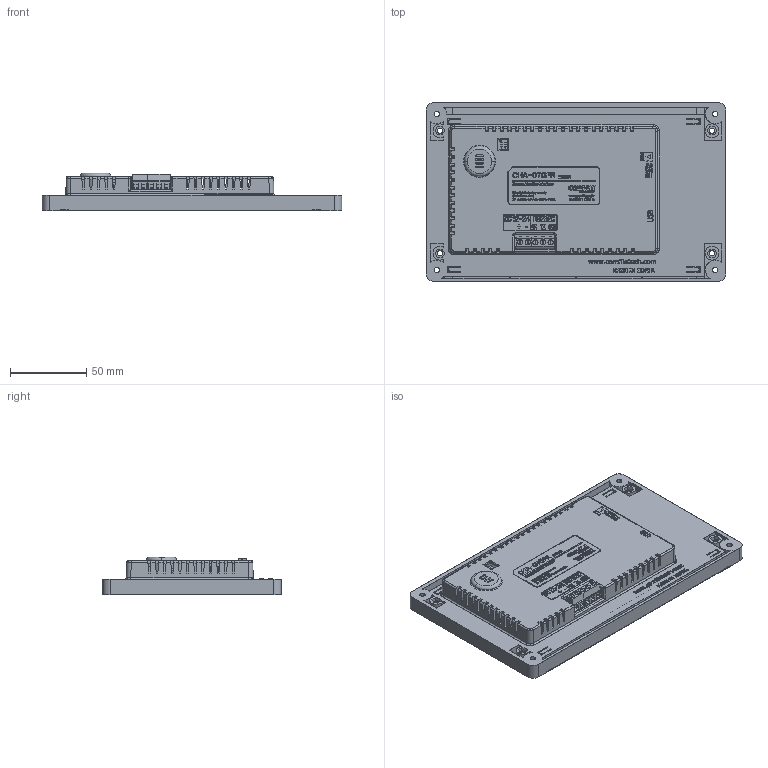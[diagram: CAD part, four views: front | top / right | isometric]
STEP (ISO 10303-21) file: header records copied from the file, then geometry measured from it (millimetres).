
FILE_DESCRIPTION (( 'STEP AP214' ), '1' );
FILE_NAME ('CHA-070PR_ASM.STEP', '2016-08-19T04:29:12', ( 'Registered User' ), ( 'Microsoft Corporation' ), 'SwSTEP 2.0', 'SolidWorks 2016', '' );
FILE_SCHEMA (( 'AUTOMOTIVE_DESIGN' ));
Length unit declared in the file: millimetre
Products named in the file (1): CHA-070PR_ASM
Bounding box: 196 x 117 x 24.5 mm (x, y, z)
Surface area: 203579.2 mm2 (no closed solid volume)
Topology: 0 solids, 16 shells, 4264 faces, 13265 edges, 9051 vertices
Faces by surface type: plane 2894, bspline 1025, cylinder 289, cone 48, torus 6, sphere 2
Entity records: 238664 total; most frequent: CARTESIAN_POINT 82862, ORIENTED_EDGE 24481, DIRECTION 17351, EDGE_CURVE 13265, VECTOR 9813, LINE 9813, VERTEX_POINT 9051, EDGE_LOOP 4721
